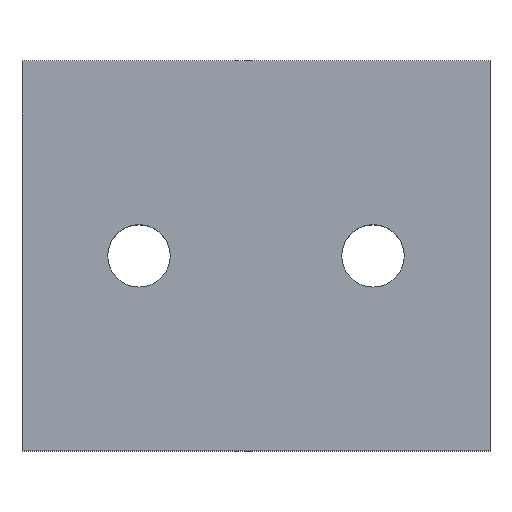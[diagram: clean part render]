
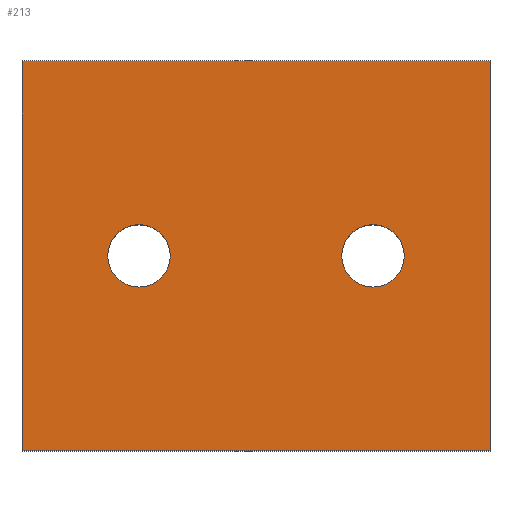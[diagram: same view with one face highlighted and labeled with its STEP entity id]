
A CAD part, top view. The second image highlights one B-rep face of the part: STEP entity #213.
In plain terms, the highlighted planar face has unit normal (0, 0, 1).
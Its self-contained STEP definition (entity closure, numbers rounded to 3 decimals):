
#24 = VERTEX_POINT('',#25);
#25 = CARTESIAN_POINT('',(0.,0.,4.));
#32 = PLANE('',#33);
#33 = AXIS2_PLACEMENT_3D('',#34,#35,#36);
#34 = CARTESIAN_POINT('',(0.,0.,0.));
#35 = DIRECTION('',(1.,0.,-0.));
#36 = DIRECTION('',(0.,0.,1.));
#44 = PLANE('',#45);
#45 = AXIS2_PLACEMENT_3D('',#46,#47,#48);
#46 = CARTESIAN_POINT('',(0.,0.,0.));
#47 = DIRECTION('',(-0.,1.,0.));
#48 = DIRECTION('',(0.,0.,1.));
#85 = VERTEX_POINT('',#86);
#86 = CARTESIAN_POINT('',(0.,10.,4.));
#100 = PLANE('',#101);
#101 = AXIS2_PLACEMENT_3D('',#102,#103,#104);
#102 = CARTESIAN_POINT('',(0.,10.,0.));
#103 = DIRECTION('',(-0.,1.,0.));
#104 = DIRECTION('',(0.,0.,1.));
#112 = EDGE_CURVE('',#24,#85,#113,.T.);
#113 = SURFACE_CURVE('',#114,(#118,#125),.PCURVE_S1.);
#114 = LINE('',#115,#116);
#115 = CARTESIAN_POINT('',(0.,0.,4.));
#116 = VECTOR('',#117,1.);
#117 = DIRECTION('',(-0.,1.,0.));
#118 = PCURVE('',#32,#119);
#119 = DEFINITIONAL_REPRESENTATION('',(#120),#124);
#120 = LINE('',#121,#122);
#121 = CARTESIAN_POINT('',(4.,0.));
#122 = VECTOR('',#123,1.);
#123 = DIRECTION('',(0.,-1.));
#124 = ( GEOMETRIC_REPRESENTATION_CONTEXT(2) 
PARAMETRIC_REPRESENTATION_CONTEXT() REPRESENTATION_CONTEXT('2D SPACE',''
  ) );
#125 = PCURVE('',#126,#131);
#126 = PLANE('',#127);
#127 = AXIS2_PLACEMENT_3D('',#128,#129,#130);
#128 = CARTESIAN_POINT('',(0.,0.,4.));
#129 = DIRECTION('',(0.,0.,1.));
#130 = DIRECTION('',(1.,0.,-0.));
#131 = DEFINITIONAL_REPRESENTATION('',(#132),#136);
#132 = LINE('',#133,#134);
#133 = CARTESIAN_POINT('',(0.,0.));
#134 = VECTOR('',#135,1.);
#135 = DIRECTION('',(0.,1.));
#136 = ( GEOMETRIC_REPRESENTATION_CONTEXT(2) 
PARAMETRIC_REPRESENTATION_CONTEXT() REPRESENTATION_CONTEXT('2D SPACE',''
  ) );
#165 = EDGE_CURVE('',#24,#166,#168,.T.);
#166 = VERTEX_POINT('',#167);
#167 = CARTESIAN_POINT('',(12.,0.,4.));
#168 = SURFACE_CURVE('',#169,(#173,#180),.PCURVE_S1.);
#169 = LINE('',#170,#171);
#170 = CARTESIAN_POINT('',(0.,0.,4.));
#171 = VECTOR('',#172,1.);
#172 = DIRECTION('',(1.,0.,-0.));
#173 = PCURVE('',#44,#174);
#174 = DEFINITIONAL_REPRESENTATION('',(#175),#179);
#175 = LINE('',#176,#177);
#176 = CARTESIAN_POINT('',(4.,0.));
#177 = VECTOR('',#178,1.);
#178 = DIRECTION('',(0.,1.));
#179 = ( GEOMETRIC_REPRESENTATION_CONTEXT(2) 
PARAMETRIC_REPRESENTATION_CONTEXT() REPRESENTATION_CONTEXT('2D SPACE',''
  ) );
#180 = PCURVE('',#126,#181);
#181 = DEFINITIONAL_REPRESENTATION('',(#182),#186);
#182 = LINE('',#183,#184);
#183 = CARTESIAN_POINT('',(0.,0.));
#184 = VECTOR('',#185,1.);
#185 = DIRECTION('',(1.,0.));
#186 = ( GEOMETRIC_REPRESENTATION_CONTEXT(2) 
PARAMETRIC_REPRESENTATION_CONTEXT() REPRESENTATION_CONTEXT('2D SPACE',''
  ) );
#202 = PLANE('',#203);
#203 = AXIS2_PLACEMENT_3D('',#204,#205,#206);
#204 = CARTESIAN_POINT('',(12.,0.,0.));
#205 = DIRECTION('',(1.,0.,-0.));
#206 = DIRECTION('',(0.,0.,1.));
#213 = ADVANCED_FACE('',(#214,#262,#293),#126,.T.);
#214 = FACE_BOUND('',#215,.T.);
#215 = EDGE_LOOP('',(#216,#217,#218,#241));
#216 = ORIENTED_EDGE('',*,*,#112,.F.);
#217 = ORIENTED_EDGE('',*,*,#165,.T.);
#218 = ORIENTED_EDGE('',*,*,#219,.T.);
#219 = EDGE_CURVE('',#166,#220,#222,.T.);
#220 = VERTEX_POINT('',#221);
#221 = CARTESIAN_POINT('',(12.,10.,4.));
#222 = SURFACE_CURVE('',#223,(#227,#234),.PCURVE_S1.);
#223 = LINE('',#224,#225);
#224 = CARTESIAN_POINT('',(12.,0.,4.));
#225 = VECTOR('',#226,1.);
#226 = DIRECTION('',(-0.,1.,0.));
#227 = PCURVE('',#126,#228);
#228 = DEFINITIONAL_REPRESENTATION('',(#229),#233);
#229 = LINE('',#230,#231);
#230 = CARTESIAN_POINT('',(12.,0.));
#231 = VECTOR('',#232,1.);
#232 = DIRECTION('',(0.,1.));
#233 = ( GEOMETRIC_REPRESENTATION_CONTEXT(2) 
PARAMETRIC_REPRESENTATION_CONTEXT() REPRESENTATION_CONTEXT('2D SPACE',''
  ) );
#234 = PCURVE('',#202,#235);
#235 = DEFINITIONAL_REPRESENTATION('',(#236),#240);
#236 = LINE('',#237,#238);
#237 = CARTESIAN_POINT('',(4.,0.));
#238 = VECTOR('',#239,1.);
#239 = DIRECTION('',(0.,-1.));
#240 = ( GEOMETRIC_REPRESENTATION_CONTEXT(2) 
PARAMETRIC_REPRESENTATION_CONTEXT() REPRESENTATION_CONTEXT('2D SPACE',''
  ) );
#241 = ORIENTED_EDGE('',*,*,#242,.F.);
#242 = EDGE_CURVE('',#85,#220,#243,.T.);
#243 = SURFACE_CURVE('',#244,(#248,#255),.PCURVE_S1.);
#244 = LINE('',#245,#246);
#245 = CARTESIAN_POINT('',(0.,10.,4.));
#246 = VECTOR('',#247,1.);
#247 = DIRECTION('',(1.,0.,-0.));
#248 = PCURVE('',#126,#249);
#249 = DEFINITIONAL_REPRESENTATION('',(#250),#254);
#250 = LINE('',#251,#252);
#251 = CARTESIAN_POINT('',(0.,10.));
#252 = VECTOR('',#253,1.);
#253 = DIRECTION('',(1.,0.));
#254 = ( GEOMETRIC_REPRESENTATION_CONTEXT(2) 
PARAMETRIC_REPRESENTATION_CONTEXT() REPRESENTATION_CONTEXT('2D SPACE',''
  ) );
#255 = PCURVE('',#100,#256);
#256 = DEFINITIONAL_REPRESENTATION('',(#257),#261);
#257 = LINE('',#258,#259);
#258 = CARTESIAN_POINT('',(4.,0.));
#259 = VECTOR('',#260,1.);
#260 = DIRECTION('',(0.,1.));
#261 = ( GEOMETRIC_REPRESENTATION_CONTEXT(2) 
PARAMETRIC_REPRESENTATION_CONTEXT() REPRESENTATION_CONTEXT('2D SPACE',''
  ) );
#262 = FACE_BOUND('',#263,.T.);
#263 = EDGE_LOOP('',(#264));
#264 = ORIENTED_EDGE('',*,*,#265,.F.);
#265 = EDGE_CURVE('',#266,#266,#268,.T.);
#266 = VERTEX_POINT('',#267);
#267 = CARTESIAN_POINT('',(3.8,5.,4.));
#268 = SURFACE_CURVE('',#269,(#274,#281),.PCURVE_S1.);
#269 = CIRCLE('',#270,0.8);
#270 = AXIS2_PLACEMENT_3D('',#271,#272,#273);
#271 = CARTESIAN_POINT('',(3.,5.,4.));
#272 = DIRECTION('',(0.,0.,1.));
#273 = DIRECTION('',(1.,0.,-0.));
#274 = PCURVE('',#126,#275);
#275 = DEFINITIONAL_REPRESENTATION('',(#276),#280);
#276 = CIRCLE('',#277,0.8);
#277 = AXIS2_PLACEMENT_2D('',#278,#279);
#278 = CARTESIAN_POINT('',(3.,5.));
#279 = DIRECTION('',(1.,0.));
#280 = ( GEOMETRIC_REPRESENTATION_CONTEXT(2) 
PARAMETRIC_REPRESENTATION_CONTEXT() REPRESENTATION_CONTEXT('2D SPACE',''
  ) );
#281 = PCURVE('',#282,#287);
#282 = CYLINDRICAL_SURFACE('',#283,0.8);
#283 = AXIS2_PLACEMENT_3D('',#284,#285,#286);
#284 = CARTESIAN_POINT('',(3.,5.,-2.));
#285 = DIRECTION('',(0.,0.,1.));
#286 = DIRECTION('',(1.,0.,-0.));
#287 = DEFINITIONAL_REPRESENTATION('',(#288),#292);
#288 = LINE('',#289,#290);
#289 = CARTESIAN_POINT('',(0.,6.));
#290 = VECTOR('',#291,1.);
#291 = DIRECTION('',(1.,0.));
#292 = ( GEOMETRIC_REPRESENTATION_CONTEXT(2) 
PARAMETRIC_REPRESENTATION_CONTEXT() REPRESENTATION_CONTEXT('2D SPACE',''
  ) );
#293 = FACE_BOUND('',#294,.T.);
#294 = EDGE_LOOP('',(#295));
#295 = ORIENTED_EDGE('',*,*,#296,.F.);
#296 = EDGE_CURVE('',#297,#297,#299,.T.);
#297 = VERTEX_POINT('',#298);
#298 = CARTESIAN_POINT('',(9.8,5.,4.));
#299 = SURFACE_CURVE('',#300,(#305,#312),.PCURVE_S1.);
#300 = CIRCLE('',#301,0.8);
#301 = AXIS2_PLACEMENT_3D('',#302,#303,#304);
#302 = CARTESIAN_POINT('',(9.,5.,4.));
#303 = DIRECTION('',(0.,0.,1.));
#304 = DIRECTION('',(1.,0.,-0.));
#305 = PCURVE('',#126,#306);
#306 = DEFINITIONAL_REPRESENTATION('',(#307),#311);
#307 = CIRCLE('',#308,0.8);
#308 = AXIS2_PLACEMENT_2D('',#309,#310);
#309 = CARTESIAN_POINT('',(9.,5.));
#310 = DIRECTION('',(1.,0.));
#311 = ( GEOMETRIC_REPRESENTATION_CONTEXT(2) 
PARAMETRIC_REPRESENTATION_CONTEXT() REPRESENTATION_CONTEXT('2D SPACE',''
  ) );
#312 = PCURVE('',#313,#318);
#313 = CYLINDRICAL_SURFACE('',#314,0.8);
#314 = AXIS2_PLACEMENT_3D('',#315,#316,#317);
#315 = CARTESIAN_POINT('',(9.,5.,-2.));
#316 = DIRECTION('',(0.,0.,1.));
#317 = DIRECTION('',(1.,0.,-0.));
#318 = DEFINITIONAL_REPRESENTATION('',(#319),#323);
#319 = LINE('',#320,#321);
#320 = CARTESIAN_POINT('',(0.,6.));
#321 = VECTOR('',#322,1.);
#322 = DIRECTION('',(1.,0.));
#323 = ( GEOMETRIC_REPRESENTATION_CONTEXT(2) 
PARAMETRIC_REPRESENTATION_CONTEXT() REPRESENTATION_CONTEXT('2D SPACE',''
  ) );
